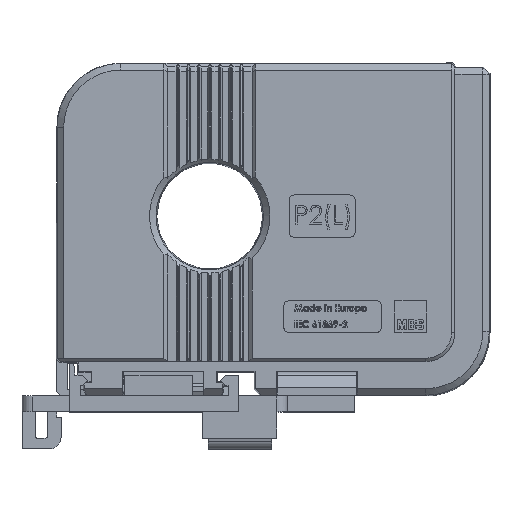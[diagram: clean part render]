
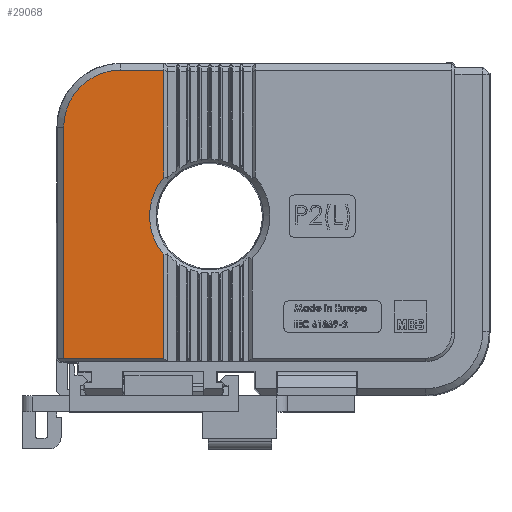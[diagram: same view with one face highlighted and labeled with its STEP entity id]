
A CAD part, top view. The second image highlights one B-rep face of the part: STEP entity #29068.
In plain terms, the highlighted planar face has unit normal (0, 0, 1).
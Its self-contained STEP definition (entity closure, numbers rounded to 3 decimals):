
#134 = CARTESIAN_POINT ( 'NONE',  ( -17.552, 27.604, 15. ) ) ;
#268 = EDGE_CURVE ( 'NONE', #9772, #9372, #2260, .T. ) ;
#464 = AXIS2_PLACEMENT_3D ( 'NONE', #12663, #12566, #12602 ) ;
#815 = CARTESIAN_POINT ( 'NONE',  ( -16.848, 27.604, 15. ) ) ;
#1284 = AXIS2_PLACEMENT_3D ( 'NONE', #33415, #23379, #3034 ) ;
#1474 = LINE ( 'NONE', #43468, #27557 ) ;
#1536 = CARTESIAN_POINT ( 'NONE',  ( -8.65, 7.386, 15. ) ) ;
#2169 = VERTEX_POINT ( 'NONE', #13751 ) ;
#2260 = B_SPLINE_CURVE_WITH_KNOTS ( 'NONE', 3,
 ( #815, #134, #43853, #43672, #43416, #43229, #43086, #43072, #42546, #42682, #42633, #42511, #42495, #42319, #41981, #41920, #41828, #41509 ),
 .UNSPECIFIED., .F., .F.,
 ( 4, 2, 2, 2, 2, 2, 2, 2, 4 ),
 ( 0., 0.002, 0.004, 0.006, 0.008, 0.011, 0.013, 0.015, 0.017 ),
 .UNSPECIFIED. ) ;
#3034 = DIRECTION ( 'NONE',  ( -1., 0., 0. ) ) ;
#3038 = ORIENTED_EDGE ( 'NONE', *, *, #26144, .T. ) ;
#3432 = VERTEX_POINT ( 'NONE', #8521 ) ;
#4472 = ORIENTED_EDGE ( 'NONE', *, *, #4891, .T. ) ;
#4891 = EDGE_CURVE ( 'NONE', #36011, #31324, #22793, .T. ) ;
#7083 = CARTESIAN_POINT ( 'NONE',  ( -16.848, 27.604, 15. ) ) ;
#8058 = LINE ( 'NONE', #11095, #15948 ) ;
#8521 = CARTESIAN_POINT ( 'NONE',  ( -27.604, -26.886, 15. ) ) ;
#9372 = VERTEX_POINT ( 'NONE', #39558 ) ;
#9772 = VERTEX_POINT ( 'NONE', #7083 ) ;
#11060 = EDGE_CURVE ( 'NONE', #31324, #28114, #23348, .T. ) ;
#11095 = CARTESIAN_POINT ( 'NONE',  ( 0., 27.604, 15. ) ) ;
#12092 = CARTESIAN_POINT ( 'NONE',  ( -8.65, -7.386, 15. ) ) ;
#12566 = DIRECTION ( 'NONE',  ( 0., 0., -1. ) ) ;
#12602 = DIRECTION ( 'NONE',  ( -1., 0., 0. ) ) ;
#12663 = CARTESIAN_POINT ( 'NONE',  ( 0., 0., 15. ) ) ;
#13523 = ORIENTED_EDGE ( 'NONE', *, *, #11060, .T. ) ;
#13556 = DIRECTION ( 'NONE',  ( 0., 1., 0. ) ) ;
#13751 = CARTESIAN_POINT ( 'NONE',  ( -27.604, -26.886, 15. ) ) ;
#15081 = VECTOR ( 'NONE', #21358, 1000. ) ;
#15241 = ORIENTED_EDGE ( 'NONE', *, *, #29303, .T. ) ;
#15948 = VECTOR ( 'NONE', #31352, 1000. ) ;
#16116 = CARTESIAN_POINT ( 'NONE',  ( -27.788, -26.76, 15. ) ) ;
#16536 = PLANE ( 'NONE',  #1284 ) ;
#18093 = CARTESIAN_POINT ( 'NONE',  ( -8.65, 0., 15. ) ) ;
#18113 = CARTESIAN_POINT ( 'NONE',  ( 0., -26.886, 15. ) ) ;
#18143 = EDGE_CURVE ( 'NONE', #33846, #36011, #40432, .T. ) ;
#19132 = CARTESIAN_POINT ( 'NONE',  ( -8.65, 0., 15. ) ) ;
#19757 = CARTESIAN_POINT ( 'NONE',  ( -8.65, 27.604, 15. ) ) ;
#21073 = ORIENTED_EDGE ( 'NONE', *, *, #268, .T. ) ;
#21358 = DIRECTION ( 'NONE',  ( 1., 0., 0. ) ) ;
#21799 = CARTESIAN_POINT ( 'NONE',  ( -8.65, -26.886, 15. ) ) ;
#22793 = CIRCLE ( 'NONE', #464, 11.375 ) ;
#23340 = VECTOR ( 'NONE', #13556, 1000. ) ;
#23348 = LINE ( 'NONE', #18093, #23340 ) ;
#23379 = DIRECTION ( 'NONE',  ( 0., 0., -1. ) ) ;
#24088 = LINE ( 'NONE', #18113, #15081 ) ;
#24596 = VECTOR ( 'NONE', #42786, 1000. ) ;
#26144 = EDGE_CURVE ( 'NONE', #2169, #3432, #28850, .T. ) ;
#26954 = EDGE_CURVE ( 'NONE', #3432, #33846, #24088, .T. ) ;
#27557 = VECTOR ( 'NONE', #29877, 1000. ) ;
#27771 = VECTOR ( 'NONE', #32999, 1000. ) ;
#28114 = VERTEX_POINT ( 'NONE', #19757 ) ;
#28850 = LINE ( 'NONE', #16116, #27771 ) ;
#29068 = ADVANCED_FACE ( 'NONE', ( #32379 ), #16536, .F. ) ;
#29303 = EDGE_CURVE ( 'NONE', #28114, #9772, #8058, .T. ) ;
#29386 = EDGE_LOOP ( 'NONE', ( #34749, #37270, #4472, #13523, #15241, #21073, #43978, #3038 ) ) ;
#29877 = DIRECTION ( 'NONE',  ( 0., -1., 0. ) ) ;
#31324 = VERTEX_POINT ( 'NONE', #1536 ) ;
#31352 = DIRECTION ( 'NONE',  ( -1., 0., 0. ) ) ;
#32379 = FACE_OUTER_BOUND ( 'NONE', #29386, .T. ) ;
#32999 = DIRECTION ( 'NONE',  ( 0.825, -0.566, 0. ) ) ;
#33415 = CARTESIAN_POINT ( 'NONE',  ( 0., 0., 15. ) ) ;
#33846 = VERTEX_POINT ( 'NONE', #21799 ) ;
#34749 = ORIENTED_EDGE ( 'NONE', *, *, #26954, .T. ) ;
#36011 = VERTEX_POINT ( 'NONE', #12092 ) ;
#37270 = ORIENTED_EDGE ( 'NONE', *, *, #18143, .T. ) ;
#39558 = CARTESIAN_POINT ( 'NONE',  ( -27.604, 16.848, 15. ) ) ;
#40432 = LINE ( 'NONE', #19132, #24596 ) ;
#41029 = EDGE_CURVE ( 'NONE', #9372, #2169, #1474, .T. ) ;
#41509 = CARTESIAN_POINT ( 'NONE',  ( -27.604, 16.848, 15. ) ) ;
#41828 = CARTESIAN_POINT ( 'NONE',  ( -27.604, 17.552, 15. ) ) ;
#41920 = CARTESIAN_POINT ( 'NONE',  ( -27.535, 18.256, 15. ) ) ;
#41981 = CARTESIAN_POINT ( 'NONE',  ( -27.26, 19.637, 15. ) ) ;
#42319 = CARTESIAN_POINT ( 'NONE',  ( -27.055, 20.314, 15. ) ) ;
#42495 = CARTESIAN_POINT ( 'NONE',  ( -26.516, 21.615, 15. ) ) ;
#42511 = CARTESIAN_POINT ( 'NONE',  ( -26.182, 22.239, 15. ) ) ;
#42546 = CARTESIAN_POINT ( 'NONE',  ( -23.956, 24.952, 15. ) ) ;
#42633 = CARTESIAN_POINT ( 'NONE',  ( -25.4, 23.409, 15. ) ) ;
#42682 = CARTESIAN_POINT ( 'NONE',  ( -24.952, 23.956, 15. ) ) ;
#42786 = DIRECTION ( 'NONE',  ( 0., 1., 0. ) ) ;
#43072 = CARTESIAN_POINT ( 'NONE',  ( -23.409, 25.4, 15. ) ) ;
#43086 = CARTESIAN_POINT ( 'NONE',  ( -22.239, 26.182, 15. ) ) ;
#43229 = CARTESIAN_POINT ( 'NONE',  ( -21.615, 26.516, 15. ) ) ;
#43416 = CARTESIAN_POINT ( 'NONE',  ( -20.314, 27.055, 15. ) ) ;
#43468 = CARTESIAN_POINT ( 'NONE',  ( -27.604, 0., 15. ) ) ;
#43672 = CARTESIAN_POINT ( 'NONE',  ( -19.637, 27.26, 15. ) ) ;
#43853 = CARTESIAN_POINT ( 'NONE',  ( -18.256, 27.535, 15. ) ) ;
#43978 = ORIENTED_EDGE ( 'NONE', *, *, #41029, .T. ) ;
